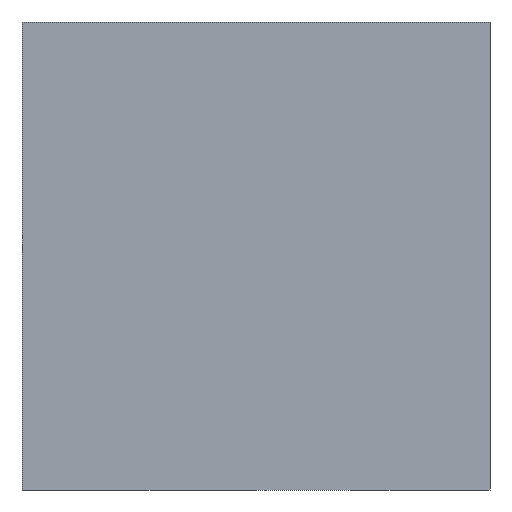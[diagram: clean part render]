
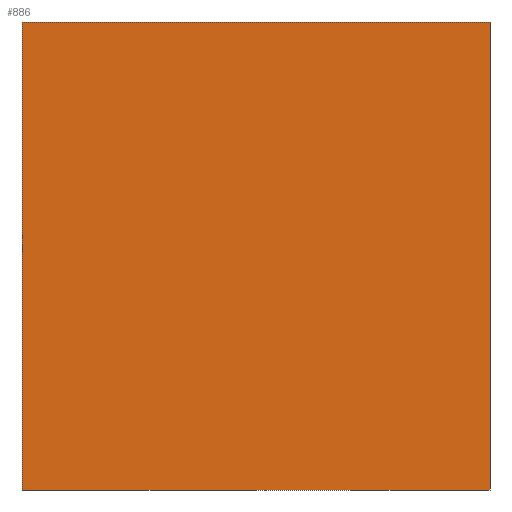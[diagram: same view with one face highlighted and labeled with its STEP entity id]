
A CAD part, left-side view. The second image highlights one B-rep face of the part: STEP entity #886.
In plain terms, the highlighted planar face has unit normal (-1, 0, 0).
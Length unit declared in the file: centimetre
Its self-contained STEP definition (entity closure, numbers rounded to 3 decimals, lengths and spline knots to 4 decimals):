
#43 = EDGE_CURVE ( 'NONE', #60, #85, #323, .T. ) ;
#56 = CARTESIAN_POINT ( 'NONE',  ( 0., 0., 0. ) ) ;
#60 = VERTEX_POINT ( 'NONE', #398 ) ;
#84 = LINE ( 'NONE', #491, #717 ) ;
#85 = VERTEX_POINT ( 'NONE', #56 ) ;
#91 = DIRECTION ( 'NONE',  ( 1., 0., 0. ) ) ;
#102 = EDGE_CURVE ( 'NONE', #153, #60, #741, .T. ) ;
#127 = DIRECTION ( 'NONE',  ( 0., -1., 0. ) ) ;
#128 = ORIENTED_EDGE ( 'NONE', *, *, #102, .F. ) ;
#153 = VERTEX_POINT ( 'NONE', #673 ) ;
#163 = DIRECTION ( 'NONE',  ( 0., 0., -1. ) ) ;
#170 = EDGE_CURVE ( 'NONE', #333, #85, #693, .T. ) ;
#224 = VECTOR ( 'NONE', #127, 100. ) ;
#227 = ORIENTED_EDGE ( 'NONE', *, *, #170, .T. ) ;
#259 = AXIS2_PLACEMENT_3D ( 'NONE', #853, #91, #499 ) ;
#266 = VECTOR ( 'NONE', #877, 100. ) ;
#323 = LINE ( 'NONE', #670, #266 ) ;
#333 = VERTEX_POINT ( 'NONE', #838 ) ;
#352 = DIRECTION ( 'NONE',  ( 0., -1., 0. ) ) ;
#371 = EDGE_CURVE ( 'NONE', #153, #333, #84, .T. ) ;
#398 = CARTESIAN_POINT ( 'NONE',  ( 0., 0., 1000. ) ) ;
#433 = FACE_OUTER_BOUND ( 'NONE', #606, .T. ) ;
#451 = ORIENTED_EDGE ( 'NONE', *, *, #371, .T. ) ;
#471 = CARTESIAN_POINT ( 'NONE',  ( 0., 1000., 1000. ) ) ;
#491 = CARTESIAN_POINT ( 'NONE',  ( 0., 1000., 1000. ) ) ;
#499 = DIRECTION ( 'NONE',  ( 0., 0., -1. ) ) ;
#606 = EDGE_LOOP ( 'NONE', ( #227, #636, #128, #451 ) ) ;
#625 = VECTOR ( 'NONE', #352, 100. ) ;
#629 = PLANE ( 'NONE',  #259 ) ;
#636 = ORIENTED_EDGE ( 'NONE', *, *, #43, .F. ) ;
#670 = CARTESIAN_POINT ( 'NONE',  ( 0., 0., 1000. ) ) ;
#673 = CARTESIAN_POINT ( 'NONE',  ( 0., 1000., 1000. ) ) ;
#693 = LINE ( 'NONE', #764, #625 ) ;
#717 = VECTOR ( 'NONE', #163, 100. ) ;
#741 = LINE ( 'NONE', #471, #224 ) ;
#764 = CARTESIAN_POINT ( 'NONE',  ( 0., 1000., 0. ) ) ;
#838 = CARTESIAN_POINT ( 'NONE',  ( 0., 1000., 0. ) ) ;
#853 = CARTESIAN_POINT ( 'NONE',  ( 0., 1000., 1000. ) ) ;
#877 = DIRECTION ( 'NONE',  ( 0., 0., -1. ) ) ;
#886 = ADVANCED_FACE ( 'NONE', ( #433 ), #629, .F. ) ;
